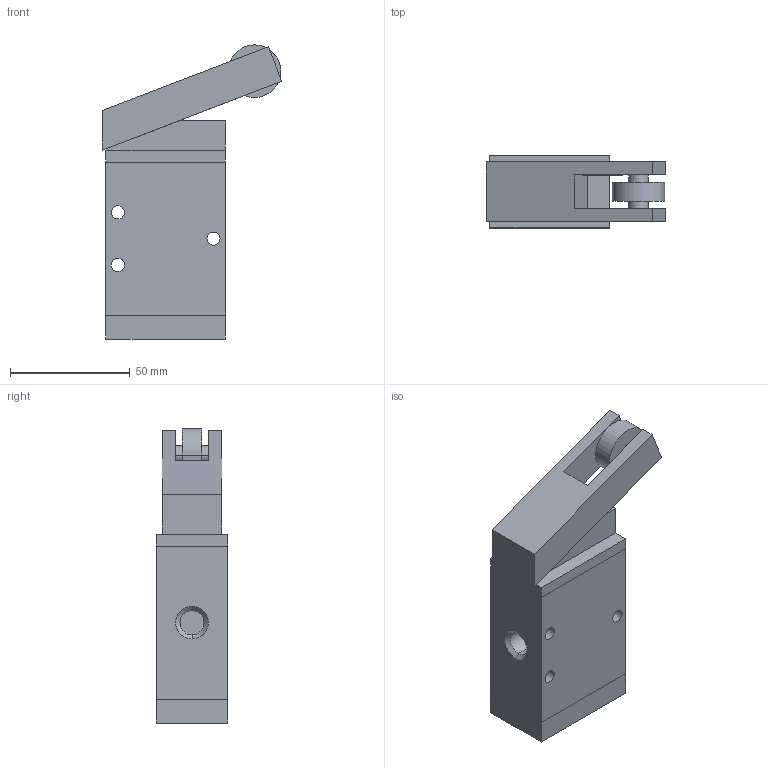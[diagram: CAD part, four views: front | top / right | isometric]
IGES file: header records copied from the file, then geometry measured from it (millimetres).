
Global section: file name: No Iges File Name specified; native system: AutoDesk Inventor R11.0; preprocessor: AutoDesk Inventor Iges Exporter R11.0; author: No Author specified; organization: No Organization specified; date: 20061219.113548; units: millimetre
Bounding box: 75 x 30 x 123 mm (x, y, z)
Volume: 146499.8 mm3; surface area: 26575.7 mm2
Topology: 1 solids, 1 shells, 59 faces, 141 edges, 92 vertices
Faces by surface type: plane 32, bspline 15, cylinder 6, revolution 6
